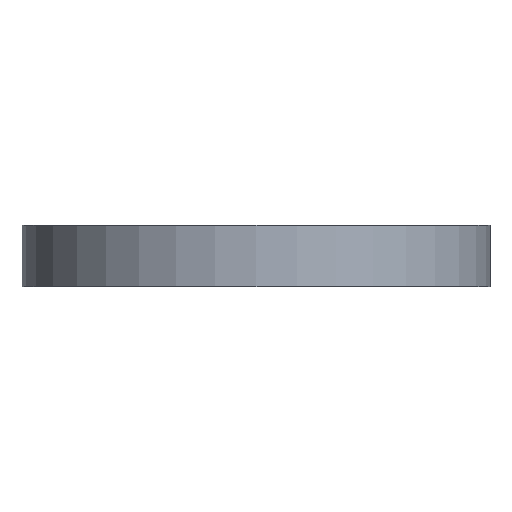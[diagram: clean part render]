
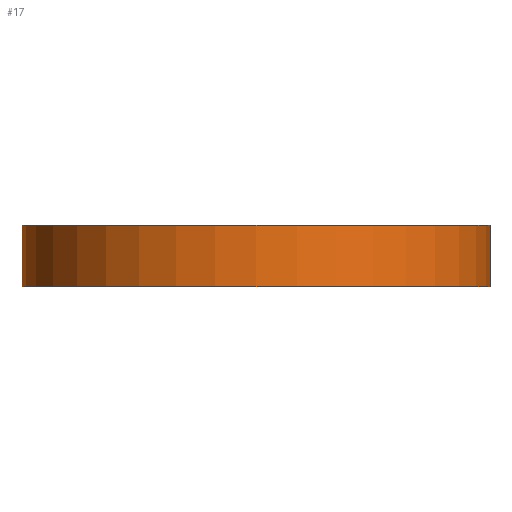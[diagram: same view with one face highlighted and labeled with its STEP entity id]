
A CAD part, front view. The second image highlights one B-rep face of the part: STEP entity #17.
In plain terms, the highlighted cylindrical face has radius 26.5 mm (diameter 53 mm), a full revolution.
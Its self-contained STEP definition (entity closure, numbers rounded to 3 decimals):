
#17 = ADVANCED_FACE('',(#18),#31,.T.);
#18 = FACE_BOUND('',#19,.T.);
#19 = EDGE_LOOP('',(#20,#54,#77,#104));
#20 = ORIENTED_EDGE('',*,*,#21,.F.);
#21 = EDGE_CURVE('',#22,#22,#24,.T.);
#22 = VERTEX_POINT('',#23);
#23 = CARTESIAN_POINT('',(26.5,0.,-3.));
#24 = SURFACE_CURVE('',#25,(#30,#42),.PCURVE_S1.);
#25 = CIRCLE('',#26,26.5);
#26 = AXIS2_PLACEMENT_3D('',#27,#28,#29);
#27 = CARTESIAN_POINT('',(0.,0.,-3.));
#28 = DIRECTION('',(0.,0.,1.));
#29 = DIRECTION('',(1.,0.,-0.));
#30 = PCURVE('',#31,#36);
#31 = CYLINDRICAL_SURFACE('',#32,26.5);
#32 = AXIS2_PLACEMENT_3D('',#33,#34,#35);
#33 = CARTESIAN_POINT('',(0.,0.,-10.));
#34 = DIRECTION('',(0.,0.,1.));
#35 = DIRECTION('',(1.,0.,-0.));
#36 = DEFINITIONAL_REPRESENTATION('',(#37),#41);
#37 = LINE('',#38,#39);
#38 = CARTESIAN_POINT('',(0.,7.));
#39 = VECTOR('',#40,1.);
#40 = DIRECTION('',(1.,0.));
#41 = ( GEOMETRIC_REPRESENTATION_CONTEXT(2) 
PARAMETRIC_REPRESENTATION_CONTEXT() REPRESENTATION_CONTEXT('2D SPACE',''
  ) );
#42 = PCURVE('',#43,#48);
#43 = PLANE('',#44);
#44 = AXIS2_PLACEMENT_3D('',#45,#46,#47);
#45 = CARTESIAN_POINT('',(0.,0.,-3.));
#46 = DIRECTION('',(0.,0.,1.));
#47 = DIRECTION('',(1.,0.,-0.));
#48 = DEFINITIONAL_REPRESENTATION('',(#49),#53);
#49 = CIRCLE('',#50,26.5);
#50 = AXIS2_PLACEMENT_2D('',#51,#52);
#51 = CARTESIAN_POINT('',(0.,0.));
#52 = DIRECTION('',(1.,0.));
#53 = ( GEOMETRIC_REPRESENTATION_CONTEXT(2) 
PARAMETRIC_REPRESENTATION_CONTEXT() REPRESENTATION_CONTEXT('2D SPACE',''
  ) );
#54 = ORIENTED_EDGE('',*,*,#55,.F.);
#55 = EDGE_CURVE('',#56,#22,#58,.T.);
#56 = VERTEX_POINT('',#57);
#57 = CARTESIAN_POINT('',(26.5,0.,-10.));
#58 = SEAM_CURVE('',#59,(#63,#70),.PCURVE_S1.);
#59 = LINE('',#60,#61);
#60 = CARTESIAN_POINT('',(26.5,0.,-10.));
#61 = VECTOR('',#62,1.);
#62 = DIRECTION('',(0.,0.,1.));
#63 = PCURVE('',#31,#64);
#64 = DEFINITIONAL_REPRESENTATION('',(#65),#69);
#65 = LINE('',#66,#67);
#66 = CARTESIAN_POINT('',(6.283,-0.));
#67 = VECTOR('',#68,1.);
#68 = DIRECTION('',(0.,1.));
#69 = ( GEOMETRIC_REPRESENTATION_CONTEXT(2) 
PARAMETRIC_REPRESENTATION_CONTEXT() REPRESENTATION_CONTEXT('2D SPACE',''
  ) );
#70 = PCURVE('',#31,#71);
#71 = DEFINITIONAL_REPRESENTATION('',(#72),#76);
#72 = LINE('',#73,#74);
#73 = CARTESIAN_POINT('',(0.,-0.));
#74 = VECTOR('',#75,1.);
#75 = DIRECTION('',(0.,1.));
#76 = ( GEOMETRIC_REPRESENTATION_CONTEXT(2) 
PARAMETRIC_REPRESENTATION_CONTEXT() REPRESENTATION_CONTEXT('2D SPACE',''
  ) );
#77 = ORIENTED_EDGE('',*,*,#78,.T.);
#78 = EDGE_CURVE('',#56,#56,#79,.T.);
#79 = SURFACE_CURVE('',#80,(#85,#92),.PCURVE_S1.);
#80 = CIRCLE('',#81,26.5);
#81 = AXIS2_PLACEMENT_3D('',#82,#83,#84);
#82 = CARTESIAN_POINT('',(0.,0.,-10.));
#83 = DIRECTION('',(0.,0.,1.));
#84 = DIRECTION('',(1.,0.,-0.));
#85 = PCURVE('',#31,#86);
#86 = DEFINITIONAL_REPRESENTATION('',(#87),#91);
#87 = LINE('',#88,#89);
#88 = CARTESIAN_POINT('',(0.,0.));
#89 = VECTOR('',#90,1.);
#90 = DIRECTION('',(1.,0.));
#91 = ( GEOMETRIC_REPRESENTATION_CONTEXT(2) 
PARAMETRIC_REPRESENTATION_CONTEXT() REPRESENTATION_CONTEXT('2D SPACE',''
  ) );
#92 = PCURVE('',#93,#98);
#93 = PLANE('',#94);
#94 = AXIS2_PLACEMENT_3D('',#95,#96,#97);
#95 = CARTESIAN_POINT('',(0.,0.,-10.));
#96 = DIRECTION('',(0.,0.,1.));
#97 = DIRECTION('',(1.,0.,-0.));
#98 = DEFINITIONAL_REPRESENTATION('',(#99),#103);
#99 = CIRCLE('',#100,26.5);
#100 = AXIS2_PLACEMENT_2D('',#101,#102);
#101 = CARTESIAN_POINT('',(0.,0.));
#102 = DIRECTION('',(1.,0.));
#103 = ( GEOMETRIC_REPRESENTATION_CONTEXT(2) 
PARAMETRIC_REPRESENTATION_CONTEXT() REPRESENTATION_CONTEXT('2D SPACE',''
  ) );
#104 = ORIENTED_EDGE('',*,*,#55,.T.);
